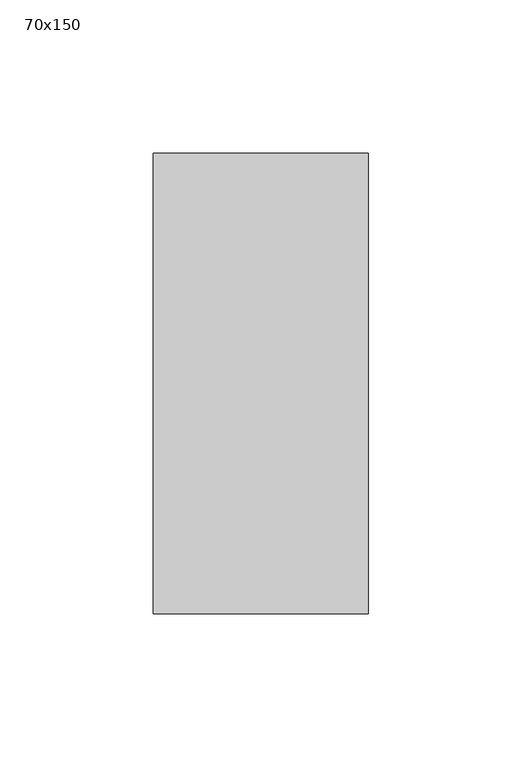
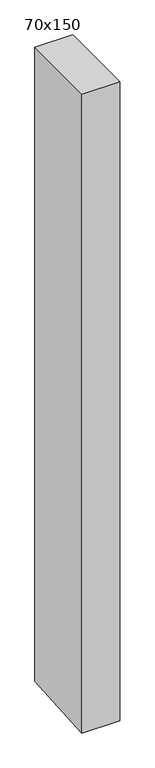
"""IFC4 building model written with IfcOpenShell, lengths in millimetres: member geometry, 長方形のマリオン : 70x150."""

from ifc_helpers import new_model, si_unit, frame, origin, place, context, project, spatial, polyline, outline, extrude, source, transform, mapped, element, save


def member_70x150_14443979(model_context):
    return source(origin(), model_context, "Body", "SweptSolid", [
        extrude(outline(polyline([(-75.0, 0.0), (75.0, 0.0), (75.0, -1234.4919599), (-75.0, -1244.3866683), (-75.0, 0.0)])), frame((-35.0, 0.0, 0.0), z_axis=(1.0, 0.0, 0.0), x_axis=(0.0, 1.0, 0.0)), (0.0, 0.0, 1.0), 70.0),
    ])


if __name__ == "__main__":
    model = new_model("IFC4")
    model_context = context("Model", 3, world=origin())
    ifc_project = project(units=[si_unit("LENGTHUNIT", "METRE", prefix="MILLI")], contexts=[model_context])
    site = spatial("IfcSite", under=ifc_project)
    building = spatial("IfcBuilding", under=site)
    placement = place(None, origin())
    member_70x150_shape = member_70x150_14443979(model_context)
    element("IfcMember", 1, ObjectType="長方形のマリオン : 70x150", at=placement, inside=building, context=model_context, shape_type="MappedRepresentation", body=[
        mapped(member_70x150_shape, transform((0.0, 0.0, 0.0), x_axis=(1.0, 0.0, 0.0), y_axis=(0.0, 1.0, 0.0), z_axis=(0.0, 0.0, 1.0))),
    ])
    save(model, "model.ifc")
